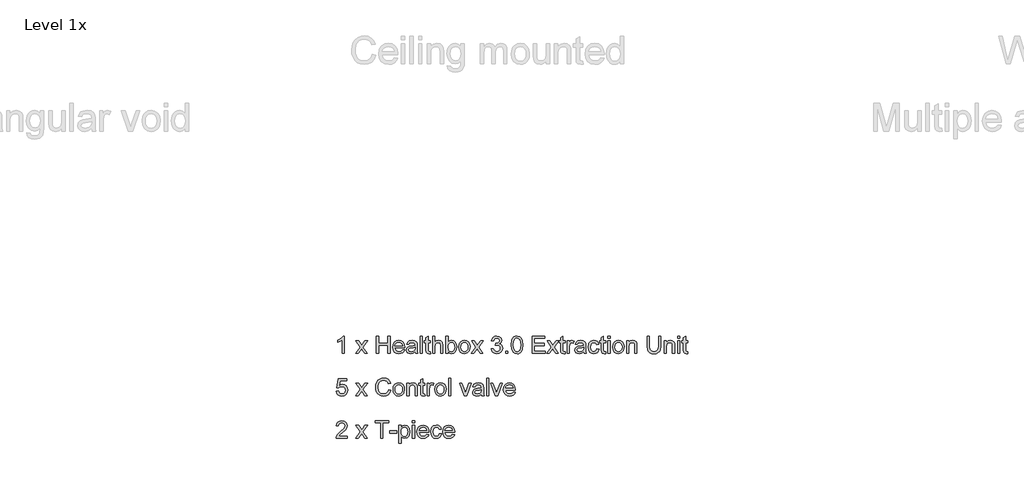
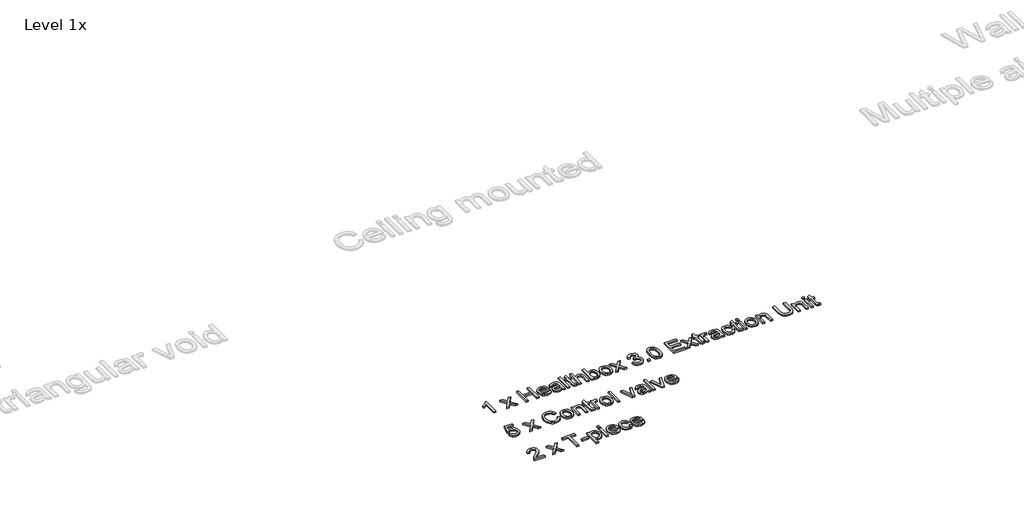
# One storey, part 3 of 7: 1 proxy.
"""IFC4 building model written with IfcOpenShell, lengths in millimetres."""

from ifc_helpers import new_model, si_unit, origin, origin_with_axes, place, context, project, spatial, polyline, outline, extrude, element, save

model = new_model("IFC4")

# Units and contexts
model_context = context("Model", 3, world=origin())
ifc_project = project(units=[si_unit("LENGTHUNIT", "METRE", prefix="MILLI")], contexts=[model_context])

# Site, building, storey
site = spatial("IfcSite", under=ifc_project)
building = spatial("IfcBuilding", under=site)
storey = spatial("IfcBuildingStorey", under=building, Name="Level 1x", Elevation=0.0)

# Proxy
placement = place(None, origin())
element("IfcBuildingElementProxy", 1, Name="120mm Arial", ObjectType="120mm Arial", at=placement, inside=storey, context=model_context, shape_type="SweptSolid", body=[
    extrude(outline(polyline([(-11701.1339528, -1686.8729039), (-11716.2023993, -1686.8729039), (-11716.2023993, -1592.9305577), (-11730.4762207, -1603.098816), (-11746.3392924, -1610.7066157), (-11746.3392924, -1596.4622248), (-11724.2516574, -1582.3649868), (-11710.8460375, -1566.3253318), (-11701.1339528, -1566.3253318), (-11701.1339528, -1686.8729039)])), origin_with_axes(), (0.0, 0.0, 1.0), 10.0),
    extrude(outline(polyline([(-11623.9081644, -1686.8729039), (-11591.7111321, -1642.3738978), (-11622.0246085, -1598.3457806), (-11603.8953838, -1598.3457806), (-11589.2683957, -1619.5357836), (-11582.4405059, -1629.5421738), (-11576.5249634, -1621.3604782), (-11559.8672666, -1598.3457806), (-11541.7380419, -1598.3457806), (-11573.5819074, -1642.3738978), (-11542.9152643, -1686.8729039), (-11561.044489, -1686.8729039), (-11579.4974499, -1660.1205253), (-11582.8819643, -1655.2350524), (-11605.7789396, -1686.8729039), (-11623.9081644, -1686.8729039)])), origin_with_axes(), (0.0, 0.0, 1.0), 10.0),
    extrude(outline(polyline([(-11480.7579224, -1686.8729039), (-11480.7579224, -1566.3253318), (-11465.6894759, -1566.3253318), (-11465.6894759, -1615.297783), (-11401.6485781, -1615.297783), (-11401.6485781, -1566.3253318), (-11386.5801316, -1566.3253318), (-11386.5801316, -1686.8729039), (-11401.6485781, -1686.8729039), (-11401.6485781, -1630.3662295), (-11465.6894759, -1630.3662295), (-11465.6894759, -1686.8729039), (-11480.7579224, -1686.8729039)])), origin_with_axes(), (0.0, 0.0, 1.0), 10.0),
    extrude(outline(polyline([(-11300.1131475, -1660.5031225), (-11285.3390066, -1662.3866783), (-11290.662259, -1673.5187875), (-11299.1566543, -1681.8402783), (-11310.6308937, -1687.0274144), (-11324.8936787, -1688.7564598), (-11342.5740874, -1685.7729368), (-11356.1783635, -1676.8223678), (-11364.853021, -1662.4860065), (-11367.7445735, -1643.3451063), (-11364.8235904, -1623.5604126), (-11356.0606413, -1608.7641987), (-11342.6403061, -1599.5377183), (-11325.7471649, -1596.4622248), (-11309.3800949, -1599.5303607), (-11296.30189, -1608.7347682), (-11287.7265607, -1623.5015515), (-11284.8681176, -1643.2568146), (-11284.9564093, -1647.3182318), (-11352.676127, -1647.3182318), (-11350.0678436, -1658.5974938), (-11344.0088271, -1666.889554), (-11335.2642721, -1671.9883984), (-11324.5993731, -1673.6880132), (-11309.8252322, -1670.5389434), (-11300.1131475, -1660.5031225)]), holes=[polyline([(-11352.676127, -1632.2497853), (-11299.9365641, -1632.2497853), (-11305.9698288, -1618.5940056), (-11314.7548509, -1613.2965049), (-11325.806026, -1611.5306713), (-11335.9632479, -1612.9396594), (-11344.3619939, -1617.1666235), (-11350.2002811, -1623.75539), (-11352.676127, -1632.2497853)])]), origin_with_axes(), (0.0, 0.0, 1.0), 10.0),
    extrude(outline(polyline([(-11213.2929966, -1675.5715691), (-11227.9052695, -1685.7839732), (-11244.0479314, -1688.7564598), (-11256.6405321, -1686.9685533), (-11265.9295525, -1681.6048338), (-11271.6574752, -1673.4599264), (-11273.5667827, -1663.3284563), (-11270.6825879, -1651.4090796), (-11263.1042188, -1642.7564951), (-11252.5533631, -1637.8121611), (-11239.5156252, -1635.546008), (-11213.3812883, -1630.3662295), (-11213.2929966, -1627.0111457), (-11217.4427055, -1615.8863942), (-11234.1004023, -1611.5306713), (-11249.3454321, -1614.4295815), (-11256.6147804, -1624.715562), (-11271.6832269, -1622.8320062), (-11265.1643579, -1608.1167264), (-11252.0383284, -1599.4935725), (-11232.1579853, -1596.4622248), (-11213.8963231, -1599.1404057), (-11203.5809119, -1605.8652886), (-11198.9603141, -1616.0924081), (-11198.2245501, -1629.2772988), (-11198.2245501, -1648.0245653), (-11197.4593555, -1674.203048), (-11194.4574385, -1686.8729039), (-11209.525885, -1686.8729039), (-11213.2929966, -1675.5715691)]), holes=[polyline([(-11213.2929966, -1645.434676), (-11237.6026389, -1650.0552739), (-11250.5668004, -1652.4980103), (-11256.438197, -1656.4711359), (-11258.4983362, -1662.2689561), (-11254.0101758, -1670.4212211), (-11240.8400004, -1673.6880132), (-11225.5949705, -1670.0827697), (-11215.7651636, -1661.3566088), (-11213.3812883, -1649.7021072), (-11213.2929966, -1645.434676)])]), origin_with_axes(), (0.0, 0.0, 1.0), 10.0),
    extrude(outline(polyline([(-11177.5054361, -1686.8729039), (-11177.5054361, -1566.3253318), (-11162.4369896, -1566.3253318), (-11162.4369896, -1686.8729039), (-11177.5054361, -1686.8729039)])), origin_with_axes(), (0.0, 0.0, 1.0), 10.0),
    extrude(outline(polyline([(-11107.813871, -1674.306055), (-11105.9303151, -1687.3143623), (-11117.2022195, -1688.7564598), (-11129.8279296, -1686.2548622), (-11136.1260693, -1679.6918474), (-11137.950764, -1662.5926923), (-11137.950764, -1613.4142272), (-11149.2520989, -1613.4142272), (-11149.2520989, -1598.3457806), (-11137.950764, -1598.3457806), (-11137.950764, -1576.8320416), (-11122.8823175, -1567.9734431), (-11122.8823175, -1598.3457806), (-11107.813871, -1598.3457806), (-11107.813871, -1613.4142272), (-11122.8823175, -1613.4142272), (-11122.8823175, -1662.1512339), (-11122.0876924, -1669.9209016), (-11119.5125184, -1672.6726589), (-11114.3768858, -1673.6880132), (-11107.813871, -1674.306055)])), origin_with_axes(), (0.0, 0.0, 1.0), 10.0),
    extrude(outline(polyline([(-11092.7454244, -1686.8729039), (-11092.7454244, -1566.3253318), (-11077.6769779, -1566.3253318), (-11077.6769779, -1610.6477545), (-11065.926827, -1600.0086072), (-11051.4543493, -1596.4622248), (-11034.5317775, -1600.3323434), (-11024.2605122, -1611.0303518), (-11021.1703035, -1630.8371184), (-11021.1703035, -1686.8729039), (-11036.23875, -1686.8729039), (-11036.23875, -1632.3969381), (-11041.0359312, -1616.5044359), (-11054.6328497, -1611.5306713), (-11066.9789695, -1614.8857551), (-11075.2195262, -1623.9797981), (-11077.6769779, -1639.8428697), (-11077.6769779, -1686.8729039), (-11092.7454244, -1686.8729039)])), origin_with_axes(), (0.0, 0.0, 1.0), 10.0),
    extrude(outline(polyline([(-10985.382743, -1686.8729039), (-11000.4511895, -1686.8729039), (-11000.4511895, -1566.3253318), (-10985.382743, -1566.3253318), (-10985.382743, -1611.0303518), (-10974.8318873, -1600.1042566), (-10961.720573, -1596.4622248), (-10946.622696, -1599.7437322), (-10934.9093332, -1608.9702126), (-10927.7135614, -1623.3176105), (-10925.1089569, -1641.2849671), (-10927.8055319, -1661.4007546), (-10935.895257, -1676.3661942), (-10947.766809, -1685.6588934), (-10961.8088647, -1688.7564598), (-10975.207127, -1684.7612613), (-10985.382743, -1672.7756659), (-10985.382743, -1686.8729039)]), holes=[polyline([(-10985.382743, -1641.9913005), (-10981.2624646, -1663.0635812), (-10973.367717, -1671.0319052), (-10963.1038093, -1673.6880132), (-10954.407079, -1671.730881), (-10946.9758627, -1665.8594844), (-10941.8770182, -1656.1106115), (-10940.1774034, -1642.5210506), (-10941.8071206, -1628.7328334), (-10946.6962724, -1619.0943252), (-10953.895723, -1613.4215848), (-10962.456337, -1611.5306713), (-10971.1530674, -1613.4878035), (-10978.5842837, -1619.3592002), (-10983.6831281, -1628.9314897), (-10985.382743, -1641.9913005)])]), origin_with_axes(), (0.0, 0.0, 1.0), 10.0),
    extrude(outline(polyline([(-10911.9240662, -1642.6093423), (-10908.6646317, -1621.2648289), (-10898.8863283, -1606.2626012), (-10886.8050835, -1598.9123189), (-10872.3399635, -1596.4622248), (-10856.5100012, -1599.4457478), (-10843.8658971, -1608.3963167), (-10835.5775157, -1622.6075982), (-10832.8147219, -1641.3732588), (-10837.7001948, -1668.1844986), (-10851.9298704, -1683.3559521), (-10872.3399635, -1688.7564598), (-10888.3612244, -1685.7839732), (-10900.9906133, -1676.8665137), (-10909.1907029, -1662.3572478), (-10911.9240662, -1642.6093423)]), holes=[polyline([(-10896.8556196, -1642.5799117), (-10895.111859, -1656.2172973), (-10889.880577, -1665.9330608), (-10882.0079023, -1671.7492751), (-10872.3399635, -1673.6880132), (-10862.7161705, -1671.7382387), (-10854.8582111, -1665.8889149), (-10849.6269291, -1656.0443928), (-10847.8831684, -1642.1090228), (-10849.6379656, -1628.8689498), (-10854.9023569, -1619.2856238), (-10862.7713528, -1613.4694095), (-10872.3399635, -1611.5306713), (-10882.0079023, -1613.4620518), (-10889.880577, -1619.2561932), (-10895.111859, -1628.9498838), (-10896.8556196, -1642.5799117)])]), origin_with_axes(), (0.0, 0.0, 1.0), 10.0),
    extrude(outline(polyline([(-10825.2804987, -1686.8729039), (-10793.0834664, -1642.3738978), (-10823.3969429, -1598.3457806), (-10805.2677181, -1598.3457806), (-10790.64073, -1619.5357836), (-10783.8128402, -1629.5421738), (-10777.8972977, -1621.3604782), (-10761.2396009, -1598.3457806), (-10743.1103762, -1598.3457806), (-10774.9542417, -1642.3738978), (-10744.2875986, -1686.8729039), (-10762.4168233, -1686.8729039), (-10780.8697842, -1660.1205253), (-10784.2542986, -1655.2350524), (-10807.1512739, -1686.8729039), (-10825.2804987, -1686.8729039)])), origin_with_axes(), (0.0, 0.0, 1.0), 10.0),
    extrude(outline(polyline([(-10687.7809241, -1654.8524551), (-10672.7124776, -1652.9688993), (-10664.3983445, -1668.8319709), (-10648.8442938, -1673.6880132), (-10638.5141674, -1672.017829), (-10630.5384857, -1667.0072762), (-10625.4396412, -1659.5319141), (-10623.7400264, -1650.4673017), (-10625.424926, -1641.8625418), (-10630.4796246, -1634.8838204), (-10638.1315701, -1630.2595437), (-10647.6082103, -1628.7181182), (-10658.1737812, -1630.3662295), (-10656.4962393, -1615.297783), (-10654.0829334, -1615.4743663), (-10636.9837783, -1611.1480741), (-10631.288965, -1605.6592747), (-10629.3906939, -1597.8454611), (-10634.8942085, -1586.058522), (-10649.0797383, -1581.3937783), (-10663.4418513, -1586.1026678), (-10670.8289218, -1600.2293364), (-10685.8973683, -1598.3457806), (-10681.4607115, -1584.8150808), (-10673.5659639, -1574.7130413), (-10662.7649485, -1568.4222591), (-10649.6094883, -1566.3253318), (-10631.4361178, -1570.4603254), (-10618.722116, -1581.7616603), (-10614.3222474, -1596.9625443), (-10618.5013868, -1610.8537685), (-10630.8622219, -1620.8307282), (-10621.4297275, -1624.6419856), (-10614.4399696, -1631.131424), (-10610.1136773, -1639.9458766), (-10608.6715799, -1650.7321767), (-10611.5557747, -1665.418026), (-10620.2083593, -1677.6905693), (-10633.2681701, -1685.9899872), (-10649.3740439, -1688.7564598), (-10663.9421709, -1686.3946574), (-10675.8026864, -1679.3092501), (-10684.0506007, -1668.4714465), (-10687.7809241, -1654.8524551)])), origin_with_axes(), (0.0, 0.0, 1.0), 10.0),
    extrude(outline(polyline([(-10587.9524659, -1686.8729039), (-10587.9524659, -1671.8044574), (-10572.8840194, -1671.8044574), (-10572.8840194, -1686.8729039), (-10587.9524659, -1686.8729039)])), origin_with_axes(), (0.0, 0.0, 1.0), 10.0),
    extrude(outline(polyline([(-10548.3977938, -1627.5703263), (-10543.9684946, -1592.8864118), (-10538.4649799, -1581.1693703), (-10530.8130344, -1572.8883466), (-10520.9574758, -1567.9660855), (-10508.8431217, -1566.3253318), (-10491.243647, -1570.2101656), (-10479.0888259, -1581.4084936), (-10472.0254916, -1599.2434127), (-10469.2884496, -1627.5703263), (-10473.673603, -1662.107088), (-10479.1440082, -1673.835166), (-10486.7849173, -1682.1492991), (-10496.6625488, -1687.1046696), (-10508.8431217, -1688.7564598), (-10524.5001794, -1685.8869802), (-10536.3901255, -1677.2785415), (-10545.3958767, -1656.8905213), (-10548.3977938, -1627.5703263)]), holes=[polyline([(-10533.3293473, -1627.5408958), (-10531.5635137, -1651.2435327), (-10526.266013, -1664.9618523), (-10518.378623, -1671.506473), (-10508.8431217, -1673.6880132), (-10499.3076204, -1671.4991154), (-10491.4202304, -1664.9324218), (-10486.1227297, -1651.2067445), (-10484.3568961, -1627.5408958), (-10486.0638686, -1604.3716877), (-10491.1847859, -1590.5466823), (-10499.0574606, -1583.6820043), (-10509.0197051, -1581.3937783), (-10518.4521994, -1583.4097716), (-10526.0305685, -1589.4577516), (-10531.5046526, -1604.1436009), (-10533.3293473, -1627.5408958)])]), origin_with_axes(), (0.0, 0.0, 1.0), 10.0),
    extrude(outline(polyline([(-10403.363996, -1686.8729039), (-10403.363996, -1566.3253318), (-10316.7204285, -1566.3253318), (-10316.7204285, -1581.3937783), (-10388.2955495, -1581.3937783), (-10388.2955495, -1617.1813388), (-10320.4875402, -1617.1813388), (-10320.4875402, -1632.2497853), (-10388.2955495, -1632.2497853), (-10388.2955495, -1671.8044574), (-10314.8368727, -1671.8044574), (-10314.8368727, -1686.8729039), (-10403.363996, -1686.8729039)])), origin_with_axes(), (0.0, 0.0, 1.0), 10.0),
    extrude(outline(polyline([(-10303.5355378, -1686.8729039), (-10271.3385056, -1642.3738978), (-10301.651982, -1598.3457806), (-10283.5227573, -1598.3457806), (-10268.8957692, -1619.5357836), (-10262.0678793, -1629.5421738), (-10256.1523368, -1621.3604782), (-10239.4946401, -1598.3457806), (-10221.3654154, -1598.3457806), (-10253.2092809, -1642.3738978), (-10222.5426378, -1686.8729039), (-10240.6718625, -1686.8729039), (-10259.1248234, -1660.1205253), (-10262.5093377, -1655.2350524), (-10285.4063131, -1686.8729039), (-10303.5355378, -1686.8729039)])), origin_with_axes(), (0.0, 0.0, 1.0), 10.0),
    extrude(outline(polyline([(-10177.3372982, -1674.306055), (-10175.4537424, -1687.3143623), (-10186.7256467, -1688.7564598), (-10199.3513568, -1686.2548622), (-10205.6494965, -1679.6918474), (-10207.4741912, -1662.5926923), (-10207.4741912, -1613.4142272), (-10218.7755261, -1613.4142272), (-10218.7755261, -1598.3457806), (-10207.4741912, -1598.3457806), (-10207.4741912, -1576.8320416), (-10192.4057447, -1567.9734431), (-10192.4057447, -1598.3457806), (-10177.3372982, -1598.3457806), (-10177.3372982, -1613.4142272), (-10192.4057447, -1613.4142272), (-10192.4057447, -1662.1512339), (-10191.6111196, -1669.9209016), (-10189.0359456, -1672.6726589), (-10183.900313, -1673.6880132), (-10177.3372982, -1674.306055)])), origin_with_axes(), (0.0, 0.0, 1.0), 10.0),
    extrude(outline(polyline([(-10162.2688517, -1686.8729039), (-10162.2688517, -1598.3457806), (-10149.083961, -1598.3457806), (-10149.083961, -1611.4423797), (-10139.725043, -1599.3758502), (-10130.3072639, -1596.4622248), (-10115.1799563, -1601.1122532), (-10120.212582, -1614.6208801), (-10130.8075835, -1611.5306713), (-10139.3277305, -1614.5031579), (-10144.7576687, -1622.7437145), (-10147.2004052, -1640.3431892), (-10147.2004052, -1686.8729039), (-10162.2688517, -1686.8729039)])), origin_with_axes(), (0.0, 0.0, 1.0), 10.0),
    extrude(outline(polyline([(-10049.2555028, -1675.5715691), (-10063.8677756, -1685.7839732), (-10080.0104376, -1688.7564598), (-10092.6030383, -1686.9685533), (-10101.8920586, -1681.6048338), (-10107.6199813, -1673.4599264), (-10109.5292888, -1663.3284563), (-10106.645094, -1651.4090796), (-10099.0667249, -1642.7564951), (-10088.5158693, -1637.8121611), (-10075.4781314, -1635.546008), (-10049.3437944, -1630.3662295), (-10049.2555028, -1627.0111457), (-10053.4052117, -1615.8863942), (-10070.0629084, -1611.5306713), (-10085.3079383, -1614.4295815), (-10092.5772865, -1624.715562), (-10107.645733, -1622.8320062), (-10101.1268641, -1608.1167264), (-10088.0008345, -1599.4935725), (-10068.1204915, -1596.4622248), (-10049.8588292, -1599.1404057), (-10039.5434181, -1605.8652886), (-10034.9228202, -1616.0924081), (-10034.1870562, -1629.2772988), (-10034.1870562, -1648.0245653), (-10033.4218617, -1674.203048), (-10030.4199446, -1686.8729039), (-10045.4883911, -1686.8729039), (-10049.2555028, -1675.5715691)]), holes=[polyline([(-10049.2555028, -1645.434676), (-10073.565145, -1650.0552739), (-10086.5293065, -1652.4980103), (-10092.4007032, -1656.4711359), (-10094.4608423, -1662.2689561), (-10089.972682, -1670.4212211), (-10076.8025066, -1673.6880132), (-10061.5574767, -1670.0827697), (-10051.7276698, -1661.3566088), (-10049.3437944, -1649.7021072), (-10049.2555028, -1645.434676)])]), origin_with_axes(), (0.0, 0.0, 1.0), 10.0),
    extrude(outline(polyline([(-9956.9612678, -1654.8524551), (-9941.8928213, -1656.7360109), (-9946.0940337, -1670.137952), (-9953.9887813, -1680.2657433), (-9964.8339425, -1686.6337807), (-9977.8863957, -1688.7564598), (-9993.9150142, -1685.7950097), (-10006.4487538, -1676.9106595), (-10014.5384789, -1662.4933641), (-10017.2350539, -1642.9330784), (-10012.6291713, -1617.9023875), (-10006.8166358, -1608.5177178), (-9998.5907944, -1601.8185867), (-9978.0924096, -1596.4622248), (-9965.3600138, -1598.3016348), (-9955.180719, -1603.8198647), (-9947.8782613, -1612.722609), (-9943.7763771, -1624.715562), (-9958.8448236, -1626.5991179), (-9965.8345815, -1615.3124982), (-9977.9746874, -1611.5306713), (-9987.7125238, -1613.3921542), (-9995.4417245, -1618.9766029), (-10000.4853867, -1628.5856806), (-10002.1666074, -1642.5210506), (-10000.5221749, -1656.6440404), (-9995.5888773, -1666.2862275), (-9987.9994717, -1671.8375668), (-9978.3867152, -1673.6880132), (-9964.1864702, -1669.0674154), (-9956.9612678, -1654.8524551)])), origin_with_axes(), (0.0, 0.0, 1.0), 10.0),
    extrude(outline(polyline([(-9896.6874817, -1674.306055), (-9894.8039259, -1687.3143623), (-9906.0758302, -1688.7564598), (-9918.7015403, -1686.2548622), (-9924.9996801, -1679.6918474), (-9926.8243748, -1662.5926923), (-9926.8243748, -1613.4142272), (-9938.1257097, -1613.4142272), (-9938.1257097, -1598.3457806), (-9926.8243748, -1598.3457806), (-9926.8243748, -1576.8320416), (-9911.7559282, -1567.9734431), (-9911.7559282, -1598.3457806), (-9896.6874817, -1598.3457806), (-9896.6874817, -1613.4142272), (-9911.7559282, -1613.4142272), (-9911.7559282, -1662.1512339), (-9910.9613031, -1669.9209016), (-9908.3861292, -1672.6726589), (-9903.2504965, -1673.6880132), (-9896.6874817, -1674.306055)])), origin_with_axes(), (0.0, 0.0, 1.0), 10.0),
    extrude(outline(polyline([(-9881.6190352, -1581.3937783), (-9881.6190352, -1566.3253318), (-9866.5505887, -1566.3253318), (-9866.5505887, -1581.3937783), (-9881.6190352, -1581.3937783)])), origin_with_axes(), (0.0, 0.0, 1.0), 10.0),
    extrude(outline(polyline([(-9881.6190352, -1686.8729039), (-9881.6190352, -1598.3457806), (-9866.5505887, -1598.3457806), (-9866.5505887, -1686.8729039), (-9881.6190352, -1686.8729039)])), origin_with_axes(), (0.0, 0.0, 1.0), 10.0),
    extrude(outline(polyline([(-9847.7150305, -1642.6093423), (-9844.455596, -1621.2648289), (-9834.6772926, -1606.2626012), (-9822.5960479, -1598.9123189), (-9808.1309278, -1596.4622248), (-9792.3009656, -1599.4457478), (-9779.6568614, -1608.3963167), (-9771.3684801, -1622.6075982), (-9768.6056863, -1641.3732588), (-9773.4911592, -1668.1844986), (-9787.7208347, -1683.3559521), (-9808.1309278, -1688.7564598), (-9824.1521887, -1685.7839732), (-9836.7815776, -1676.8665137), (-9844.9816673, -1662.3572478), (-9847.7150305, -1642.6093423)]), holes=[polyline([(-9832.646584, -1642.5799117), (-9830.9028233, -1656.2172973), (-9825.6715414, -1665.9330608), (-9817.7988667, -1671.7492751), (-9808.1309278, -1673.6880132), (-9798.5071348, -1671.7382387), (-9790.6491754, -1665.8889149), (-9785.4178935, -1656.0443928), (-9783.6741328, -1642.1090228), (-9785.4289299, -1628.8689498), (-9790.6933213, -1619.2856238), (-9798.5623171, -1613.4694095), (-9808.1309278, -1611.5306713), (-9817.7988667, -1613.4620518), (-9825.6715414, -1619.2561932), (-9830.9028233, -1628.9498838), (-9832.646584, -1642.5799117)])]), origin_with_axes(), (0.0, 0.0, 1.0), 10.0),
    extrude(outline(polyline([(-9751.6536839, -1686.8729039), (-9751.6536839, -1598.3457806), (-9736.5852374, -1598.3457806), (-9736.5852374, -1610.7066157), (-9725.0631733, -1600.0233225), (-9709.3325392, -1596.4622248), (-9695.1028636, -1599.3317044), (-9685.390779, -1606.8659276), (-9680.8731881, -1617.9465333), (-9680.078563, -1632.5146603), (-9680.078563, -1686.8729039), (-9695.1470095, -1686.8729039), (-9695.1470095, -1634.545369), (-9696.8834125, -1621.2133254), (-9703.0196842, -1614.1647064), (-9713.3645259, -1611.5306713), (-9722.1900149, -1613.009557), (-9729.7132017, -1617.4462138), (-9734.8672285, -1626.0178643), (-9736.5852374, -1639.9017308), (-9736.5852374, -1686.8729039), (-9751.6536839, -1686.8729039)])), origin_with_axes(), (0.0, 0.0, 1.0), 10.0),
    extrude(outline(polyline([(-9531.2776536, -1566.3253318), (-9516.209207, -1566.3253318), (-9516.209207, -1635.8697441), (-9520.3000548, -1664.6969773), (-9526.0316563, -1674.3722738), (-9535.0447652, -1682.0610075), (-9547.3614544, -1687.0825967), (-9563.0037968, -1688.7564598), (-9578.304009, -1687.2996471), (-9590.5360853, -1682.929209), (-9599.7037047, -1675.7959771), (-9605.8105458, -1666.050783), (-9610.3869978, -1635.8697441), (-9610.3869978, -1566.3253318), (-9595.3185513, -1566.3253318), (-9595.3185513, -1635.3399941), (-9592.3460648, -1658.3105458), (-9582.1336606, -1669.6854571), (-9564.4164637, -1673.6880132), (-9549.0904998, -1671.7088081), (-9538.9001685, -1665.7711927), (-9533.1832823, -1654.2049828), (-9531.2776536, -1635.3399941), (-9531.2776536, -1566.3253318)])), origin_with_axes(), (0.0, 0.0, 1.0), 10.0),
    extrude(outline(polyline([(-9491.7229814, -1686.8729039), (-9491.7229814, -1598.3457806), (-9476.6545349, -1598.3457806), (-9476.6545349, -1610.7066157), (-9465.1324708, -1600.0233225), (-9449.4018367, -1596.4622248), (-9435.1721611, -1599.3317044), (-9425.4600765, -1606.8659276), (-9420.9424856, -1617.9465333), (-9420.1478604, -1632.5146603), (-9420.1478604, -1686.8729039), (-9435.216307, -1686.8729039), (-9435.216307, -1634.545369), (-9436.95271, -1621.2133254), (-9443.0889817, -1614.1647064), (-9453.4338234, -1611.5306713), (-9462.2593124, -1613.009557), (-9469.7824992, -1617.4462138), (-9474.936526, -1626.0178643), (-9476.6545349, -1639.9017308), (-9476.6545349, -1686.8729039), (-9491.7229814, -1686.8729039)])), origin_with_axes(), (0.0, 0.0, 1.0), 10.0),
    extrude(outline(polyline([(-9399.4287465, -1686.8729039), (-9399.4287465, -1598.3457806), (-9384.3603, -1598.3457806), (-9384.3603, -1686.8729039), (-9399.4287465, -1686.8729039)])), origin_with_axes(), (0.0, 0.0, 1.0), 10.0),
    extrude(outline(polyline([(-9399.4287465, -1581.3937783), (-9399.4287465, -1566.3253318), (-9384.3603, -1566.3253318), (-9384.3603, -1581.3937783), (-9399.4287465, -1581.3937783)])), origin_with_axes(), (0.0, 0.0, 1.0), 10.0),
    extrude(outline(polyline([(-9329.7371813, -1674.306055), (-9327.8536255, -1687.3143623), (-9339.1255298, -1688.7564598), (-9351.7512399, -1686.2548622), (-9358.0493797, -1679.6918474), (-9359.8740744, -1662.5926923), (-9359.8740744, -1613.4142272), (-9371.1754093, -1613.4142272), (-9371.1754093, -1598.3457806), (-9359.8740744, -1598.3457806), (-9359.8740744, -1576.8320416), (-9344.8056278, -1567.9734431), (-9344.8056278, -1598.3457806), (-9329.7371813, -1598.3457806), (-9329.7371813, -1613.4142272), (-9344.8056278, -1613.4142272), (-9344.8056278, -1662.1512339), (-9344.0110027, -1669.9209016), (-9341.4358288, -1672.6726589), (-9336.3001961, -1673.6880132), (-9329.7371813, -1674.306055)])), origin_with_axes(), (0.0, 0.0, 1.0), 10.0),
    extrude(outline(polyline([(-11757.6406272, -1947.5920179), (-11742.5721807, -1945.7084621), (-11734.9790963, -1961.2330823), (-11719.2337469, -1966.4275761), (-11708.4327316, -1964.6212755), (-11700.3393277, -1959.2023737), (-11695.2846291, -1950.7962701), (-11693.5997295, -1940.0283641), (-11695.1779433, -1929.8895363), (-11699.9125846, -1922.1345838), (-11707.8404416, -1917.2123228), (-11718.9983025, -1915.5715691), (-11732.227339, -1918.1908889), (-11740.6886249, -1924.9893481), (-11755.7570714, -1923.1057923), (-11742.5721807, -1860.9484504), (-11684.1819504, -1860.9484504), (-11684.1819504, -1876.0168969), (-11730.387929, -1876.0168969), (-11736.8332216, -1909.2145682), (-11726.0689944, -1902.6809839), (-11714.7897324, -1900.5031225), (-11700.7108885, -1903.2033764), (-11689.0232775, -1911.3041379), (-11681.1542816, -1923.6502577), (-11678.531283, -1939.0865862), (-11680.8930854, -1954.1550327), (-11687.9784926, -1967.0456178), (-11701.5459806, -1977.8834214), (-11719.2926081, -1981.4960226), (-11734.0925007, -1979.1746872), (-11745.8831187, -1972.210681), (-11753.9654861, -1961.4133445), (-11757.6406272, -1947.5920179)])), origin_with_axes(), (0.0, 0.0, 1.0), 10.0),
    extrude(outline(polyline([(-11623.9081644, -1979.6124668), (-11591.7111321, -1935.1134606), (-11622.0246085, -1891.0853435), (-11603.8953838, -1891.0853435), (-11589.2683957, -1912.2753464), (-11582.4405059, -1922.2817366), (-11576.5249634, -1914.1000411), (-11559.8672666, -1891.0853435), (-11541.7380419, -1891.0853435), (-11573.5819074, -1935.1134606), (-11542.9152643, -1979.6124668), (-11561.044489, -1979.6124668), (-11579.4974499, -1952.8600881), (-11582.8819643, -1947.9746152), (-11605.7789396, -1979.6124668), (-11623.9081644, -1979.6124668)])), origin_with_axes(), (0.0, 0.0, 1.0), 10.0),
    extrude(outline(polyline([(-11395.9979107, -1936.761572), (-11380.9294642, -1940.6464058), (-11387.8824339, -1958.2054135), (-11398.7938139, -1971.0334586), (-11413.1264964, -1978.8803816), (-11430.3433738, -1981.4960226), (-11447.8214474, -1979.5168175), (-11461.701635, -1973.5792021), (-11472.3407823, -1963.8891903), (-11480.0957348, -1950.6527961), (-11484.8303761, -1935.0913877), (-11486.4085898, -1918.4263333), (-11484.6243622, -1900.8489316), (-11479.2716791, -1885.6701205), (-11470.6301311, -1873.3718254), (-11458.9793083, -1864.4359717), (-11445.1616605, -1858.994997), (-11430.0196376, -1857.1813388), (-11413.4980572, -1859.5284259), (-11399.8385987, -1866.5696873), (-11389.4680053, -1877.8710222), (-11382.81302, -1892.9983298), (-11397.8814665, -1896.5888581), (-11403.1053909, -1885.6002229), (-11410.2423016, -1878.0623208), (-11419.3804903, -1873.7029192), (-11430.6082488, -1872.2497853), (-11443.5503374, -1873.8611084), (-11454.1821271, -1878.6950779), (-11462.2497792, -1886.2440164), (-11467.4994553, -1896.0002469), (-11471.3401433, -1918.3969028), (-11466.7931219, -1944.3546564), (-11460.9805863, -1954.0483469), (-11452.6370227, -1960.9387767), (-11431.8443323, -1966.4275761), (-11419.2664469, -1964.5587355), (-11408.7854889, -1958.9522139), (-11400.8723471, -1949.6668724), (-11395.9979107, -1936.761572)])), origin_with_axes(), (0.0, 0.0, 1.0), 10.0),
    extrude(outline(polyline([(-11365.8610177, -1935.3489051), (-11362.6015832, -1914.0043918), (-11352.8232797, -1899.002164), (-11340.742035, -1891.6518817), (-11326.276915, -1889.2017876), (-11310.4469527, -1892.1853106), (-11297.8028486, -1901.1358796), (-11289.5144672, -1915.347161), (-11286.7516734, -1934.1128216), (-11291.6371463, -1960.9240614), (-11305.8668219, -1976.0955149), (-11326.276915, -1981.4960226), (-11342.2981759, -1978.5235361), (-11354.9275648, -1969.6060765), (-11363.1276544, -1955.0968106), (-11365.8610177, -1935.3489051)]), holes=[polyline([(-11350.7925711, -1935.3194746), (-11349.0488105, -1948.9568601), (-11343.8175285, -1958.6726236), (-11335.9448538, -1964.488838), (-11326.276915, -1966.4275761), (-11316.653122, -1964.4778015), (-11308.7951626, -1958.6284778), (-11303.5638806, -1948.7839556), (-11301.8201199, -1934.8485856), (-11303.5749171, -1921.6085126), (-11308.8393084, -1912.0251866), (-11316.7083043, -1906.2089723), (-11326.276915, -1904.2702342), (-11335.9448538, -1906.2016146), (-11343.8175285, -1911.9957561), (-11349.0488105, -1921.6894466), (-11350.7925711, -1935.3194746)])]), origin_with_axes(), (0.0, 0.0, 1.0), 10.0),
    extrude(outline(polyline([(-11269.7996711, -1979.6124668), (-11269.7996711, -1891.0853435), (-11254.7312246, -1891.0853435), (-11254.7312246, -1903.4461785), (-11243.2091605, -1892.7628854), (-11227.4785264, -1889.2017876), (-11213.2488508, -1892.0712672), (-11203.5367661, -1899.6054905), (-11199.0191752, -1910.6860962), (-11198.2245501, -1925.2542232), (-11198.2245501, -1979.6124668), (-11213.2929966, -1979.6124668), (-11213.2929966, -1927.2849318), (-11215.0293996, -1913.9528883), (-11221.1656713, -1906.9042692), (-11231.510513, -1904.2702342), (-11240.3360021, -1905.7491198), (-11247.8591889, -1910.1857766), (-11253.0132156, -1918.7574271), (-11254.7312246, -1932.6412936), (-11254.7312246, -1979.6124668), (-11269.7996711, -1979.6124668)])), origin_with_axes(), (0.0, 0.0, 1.0), 10.0),
    extrude(outline(polyline([(-11145.4849873, -1967.0456178), (-11143.6014315, -1980.0539252), (-11154.8733358, -1981.4960226), (-11167.4990459, -1978.994425), (-11173.7971856, -1972.4314102), (-11175.6218803, -1955.3322551), (-11175.6218803, -1906.15379), (-11186.9232152, -1906.15379), (-11186.9232152, -1891.0853435), (-11175.6218803, -1891.0853435), (-11175.6218803, -1869.5716044), (-11160.5534338, -1860.7130059), (-11160.5534338, -1891.0853435), (-11145.4849873, -1891.0853435), (-11145.4849873, -1906.15379), (-11160.5534338, -1906.15379), (-11160.5534338, -1954.8907967), (-11159.7588087, -1962.6604644), (-11157.1836347, -1965.4122218), (-11152.0480021, -1966.4275761), (-11145.4849873, -1967.0456178)])), origin_with_axes(), (0.0, 0.0, 1.0), 10.0),
    extrude(outline(polyline([(-11130.4165407, -1979.6124668), (-11130.4165407, -1891.0853435), (-11117.23165, -1891.0853435), (-11117.23165, -1904.1819425), (-11107.8727321, -1892.115413), (-11098.454953, -1889.2017876), (-11083.3276454, -1893.8518161), (-11088.3602711, -1907.3604429), (-11098.9552725, -1904.2702342), (-11107.4754195, -1907.2427207), (-11112.9053578, -1915.4832774), (-11115.3480942, -1933.082752), (-11115.3480942, -1979.6124668), (-11130.4165407, -1979.6124668)])), origin_with_axes(), (0.0, 0.0, 1.0), 10.0),
    extrude(outline(polyline([(-11077.6769779, -1935.3489051), (-11074.4175434, -1914.0043918), (-11064.63924, -1899.002164), (-11052.5579953, -1891.6518817), (-11038.0928752, -1889.2017876), (-11022.262913, -1892.1853106), (-11009.6188088, -1901.1358796), (-11001.3304275, -1915.347161), (-10998.5676337, -1934.1128216), (-11003.4531066, -1960.9240614), (-11017.6827821, -1976.0955149), (-11038.0928752, -1981.4960226), (-11054.1141361, -1978.5235361), (-11066.743525, -1969.6060765), (-11074.9436147, -1955.0968106), (-11077.6769779, -1935.3489051)]), holes=[polyline([(-11062.6085314, -1935.3194746), (-11060.8647707, -1948.9568601), (-11055.6334888, -1958.6726236), (-11047.7608141, -1964.488838), (-11038.0928752, -1966.4275761), (-11028.4690822, -1964.4778015), (-11020.6111228, -1958.6284778), (-11015.3798409, -1948.7839556), (-11013.6360802, -1934.8485856), (-11015.3908773, -1921.6085126), (-11020.6552687, -1912.0251866), (-11028.5242645, -1906.2089723), (-11038.0928752, -1904.2702342), (-11047.7608141, -1906.2016146), (-11055.6334888, -1911.9957561), (-11060.8647707, -1921.6894466), (-11062.6085314, -1935.3194746)])]), origin_with_axes(), (0.0, 0.0, 1.0), 10.0),
    extrude(outline(polyline([(-10981.6156313, -1979.6124668), (-10981.6156313, -1859.0648946), (-10966.5471848, -1859.0648946), (-10966.5471848, -1979.6124668), (-10981.6156313, -1979.6124668)])), origin_with_axes(), (0.0, 0.0, 1.0), 10.0),
    extrude(outline(polyline([(-10875.1358667, -1979.6124668), (-10906.2733987, -1891.0853435), (-10890.3220354, -1891.0853435), (-10871.4570467, -1944.1192119), (-10865.7769487, -1961.954131), (-10860.2145729, -1945.1198509), (-10841.231862, -1891.0853435), (-10825.2804987, -1891.0853435), (-10856.0354335, -1979.6124668), (-10875.1358667, -1979.6124668)])), origin_with_axes(), (0.0, 0.0, 1.0), 10.0),
    extrude(outline(polyline([(-10755.5889335, -1968.3111319), (-10770.2012063, -1978.5235361), (-10786.3438683, -1981.4960226), (-10798.936469, -1979.7081161), (-10808.2254894, -1974.3443966), (-10813.953412, -1966.1994892), (-10815.8627196, -1956.0680191), (-10812.9785247, -1944.1486424), (-10805.4001556, -1935.4960579), (-10794.8493, -1930.5517239), (-10781.8115621, -1928.2855708), (-10755.6772252, -1923.1057923), (-10755.5889335, -1919.7507085), (-10759.7386424, -1908.625957), (-10776.3963391, -1904.2702342), (-10791.641369, -1907.1691443), (-10798.9107173, -1917.4551249), (-10813.9791638, -1915.5715691), (-10807.4602948, -1900.8562892), (-10794.3342652, -1892.2331353), (-10774.4539222, -1889.2017876), (-10756.19226, -1891.8799686), (-10745.8768488, -1898.6048514), (-10741.256251, -1908.8319709), (-10740.520487, -1922.0168616), (-10740.520487, -1940.7641281), (-10739.7552924, -1966.9426109), (-10736.7533753, -1979.6124668), (-10751.8218219, -1979.6124668), (-10755.5889335, -1968.3111319)]), holes=[polyline([(-10755.5889335, -1938.1742388), (-10779.8985757, -1942.7948367), (-10792.8627373, -1945.2375731), (-10798.7341339, -1949.2106987), (-10800.7942731, -1955.0085189), (-10796.3061127, -1963.160784), (-10783.1359373, -1966.4275761), (-10767.8909074, -1962.8223325), (-10758.0611005, -1954.0961716), (-10755.6772252, -1942.44167), (-10755.5889335, -1938.1742388)])]), origin_with_axes(), (0.0, 0.0, 1.0), 10.0),
    extrude(outline(polyline([(-10719.801373, -1979.6124668), (-10719.801373, -1859.0648946), (-10704.7329265, -1859.0648946), (-10704.7329265, -1979.6124668), (-10719.801373, -1979.6124668)])), origin_with_axes(), (0.0, 0.0, 1.0), 10.0),
    extrude(outline(polyline([(-10660.4105037, -1979.6124668), (-10691.5480358, -1891.0853435), (-10675.5966725, -1891.0853435), (-10656.7316838, -1944.1192119), (-10651.0515858, -1961.954131), (-10645.48921, -1945.1198509), (-10626.506499, -1891.0853435), (-10610.5551357, -1891.0853435), (-10641.3100705, -1979.6124668), (-10660.4105037, -1979.6124668)])), origin_with_axes(), (0.0, 0.0, 1.0), 10.0),
    extrude(outline(polyline([(-10535.3894865, -1953.2426854), (-10520.6153455, -1955.1262412), (-10525.938598, -1966.2583504), (-10534.4329933, -1974.5798411), (-10545.9072327, -1979.7669772), (-10560.1700177, -1981.4960226), (-10577.8504263, -1978.5124996), (-10591.4547025, -1969.5619307), (-10600.12936, -1955.2255693), (-10603.0209125, -1936.0846691), (-10600.0999294, -1916.2999754), (-10591.3369803, -1901.5037616), (-10577.9166451, -1892.2772811), (-10561.0235039, -1889.2017876), (-10544.6564339, -1892.2699235), (-10531.578229, -1901.474331), (-10523.0028997, -1916.2411143), (-10520.1444566, -1935.9963774), (-10520.2327483, -1940.0577947), (-10587.9524659, -1940.0577947), (-10585.3441826, -1951.3370566), (-10579.2851661, -1959.6291168), (-10570.5406111, -1964.7279613), (-10559.8757121, -1966.4275761), (-10545.1015711, -1963.2785062), (-10535.3894865, -1953.2426854)]), holes=[polyline([(-10587.9524659, -1924.9893481), (-10535.2129031, -1924.9893481), (-10541.2461678, -1911.3335685), (-10550.0311899, -1906.0360677), (-10561.082365, -1904.2702342), (-10571.2395869, -1905.6792222), (-10579.6383328, -1909.9061863), (-10585.4766201, -1916.4949529), (-10587.9524659, -1924.9893481)])]), origin_with_axes(), (0.0, 0.0, 1.0), 10.0),
    extrude(outline(polyline([(-11680.4148388, -2257.2835831), (-11680.4148388, -2272.3520296), (-11759.5241831, -2272.3520296), (-11757.9055023, -2261.9630421), (-11748.7525982, -2245.9675329), (-11729.8876095, -2228.5004958), (-11703.8709948, -2203.3962284), (-11697.3668412, -2186.3265039), (-11698.9009091, -2178.7812441), (-11703.5031128, -2172.5088561), (-11710.5774836, -2168.281892), (-11719.5280525, -2166.8729039), (-11728.9274375, -2168.2487826), (-11736.2298951, -2172.3764186), (-11740.9424635, -2178.9320757), (-11742.5721807, -2187.5920179), (-11757.6406272, -2185.7084621), (-11753.987559, -2171.1329775), (-11746.0891326, -2160.4864725), (-11734.3573758, -2153.9749612), (-11719.2043164, -2151.8044574), (-11703.9408924, -2154.2177633), (-11692.2312085, -2161.457681), (-11684.7815981, -2172.2734116), (-11682.2983946, -2185.4141565), (-11684.9765756, -2199.7026932), (-11693.8793198, -2214.4768341), (-11715.4666353, -2235.1223717), (-11732.8012349, -2249.6169223), (-11739.5996942, -2257.2835831), (-11680.4148388, -2257.2835831)])), origin_with_axes(), (0.0, 0.0, 1.0), 10.0),
    extrude(outline(polyline([(-11623.9081644, -2272.3520296), (-11591.7111321, -2227.8530235), (-11622.0246085, -2183.8249063), (-11603.8953838, -2183.8249063), (-11589.2683957, -2205.0149092), (-11582.4405059, -2215.0212995), (-11576.5249634, -2206.8396039), (-11559.8672666, -2183.8249063), (-11541.7380419, -2183.8249063), (-11573.5819074, -2227.8530235), (-11542.9152643, -2272.3520296), (-11561.044489, -2272.3520296), (-11579.4974499, -2245.5996509), (-11582.8819643, -2240.714178), (-11605.7789396, -2272.3520296), (-11623.9081644, -2272.3520296)])), origin_with_axes(), (0.0, 0.0, 1.0), 10.0),
    extrude(outline(polyline([(-11450.6210293, -2272.3520296), (-11450.6210293, -2166.8729039), (-11490.1757015, -2166.8729039), (-11490.1757015, -2151.8044574), (-11395.9979107, -2151.8044574), (-11395.9979107, -2166.8729039), (-11435.5525828, -2166.8729039), (-11435.5525828, -2272.3520296), (-11450.6210293, -2272.3520296)])), origin_with_axes(), (0.0, 0.0, 1.0), 10.0),
    extrude(outline(polyline([(-11388.4636874, -2236.5644691), (-11388.4636874, -2221.4960226), (-11341.3747921, -2221.4960226), (-11341.3747921, -2236.5644691), (-11388.4636874, -2236.5644691)])), origin_with_axes(), (0.0, 0.0, 1.0), 10.0),
    extrude(outline(polyline([(-11324.4227897, -2306.2560343), (-11324.4227897, -2183.8249063), (-11309.3543432, -2183.8249063), (-11309.3543432, -2198.5990472), (-11298.9359251, -2186.1057747), (-11284.8681176, -2181.9413505), (-11265.7676844, -2187.7686013), (-11253.2891271, -2204.1908535), (-11249.0805571, -2227.4115651), (-11253.8335925, -2251.8242143), (-11259.6608433, -2261.4038614), (-11267.6365249, -2268.4524805), (-11286.6928123, -2274.2355854), (-11299.8041266, -2270.3654668), (-11309.3543432, -2260.5798058), (-11309.3543432, -2306.2560343), (-11324.4227897, -2306.2560343)]), holes=[polyline([(-11309.3543432, -2228.7948014), (-11307.724626, -2242.3034282), (-11302.8354742, -2251.7506379), (-11295.6213083, -2257.3130136), (-11287.0165485, -2259.1671389), (-11278.2719934, -2257.2467949), (-11270.8738865, -2251.4857628), (-11265.8302243, -2241.6927441), (-11264.1490036, -2227.6764401), (-11265.7897573, -2214.2413896), (-11270.7120184, -2204.6617425), (-11277.9151479, -2198.9227834), (-11286.3985067, -2197.009797), (-11294.9149749, -2199.0441844), (-11302.3940159, -2205.1473467), (-11307.6142614, -2215.1279853), (-11309.3543432, -2228.7948014)])]), origin_with_axes(), (0.0, 0.0, 1.0), 10.0),
    extrude(outline(polyline([(-11232.1285548, -2166.8729039), (-11232.1285548, -2151.8044574), (-11217.0601082, -2151.8044574), (-11217.0601082, -2166.8729039), (-11232.1285548, -2166.8729039)])), origin_with_axes(), (0.0, 0.0, 1.0), 10.0),
    extrude(outline(polyline([(-11232.1285548, -2272.3520296), (-11232.1285548, -2183.8249063), (-11217.0601082, -2183.8249063), (-11217.0601082, -2272.3520296), (-11232.1285548, -2272.3520296)])), origin_with_axes(), (0.0, 0.0, 1.0), 10.0),
    extrude(outline(polyline([(-11132.4766799, -2245.9822482), (-11117.702539, -2247.865804), (-11123.0257915, -2258.9979132), (-11131.5201867, -2267.3194039), (-11142.9944262, -2272.50654), (-11157.2572111, -2274.2355854), (-11174.9376198, -2271.2520624), (-11188.541896, -2262.3014935), (-11197.2165534, -2247.9651321), (-11200.1081059, -2228.8242319), (-11197.1871229, -2209.0395382), (-11188.4241737, -2194.2433244), (-11175.0038386, -2185.0168439), (-11158.1106973, -2181.9413505), (-11141.7436274, -2185.0094863), (-11128.6654224, -2194.2138938), (-11120.0900931, -2208.9806771), (-11117.23165, -2228.7359403), (-11117.3199417, -2232.7973575), (-11185.0396594, -2232.7973575), (-11182.431376, -2244.0766195), (-11176.3723596, -2252.3686796), (-11167.6278046, -2257.4675241), (-11156.9629055, -2259.1671389), (-11142.1887646, -2256.018069), (-11132.4766799, -2245.9822482)]), holes=[polyline([(-11185.0396594, -2217.728911), (-11132.3000966, -2217.728911), (-11138.3333613, -2204.0731313), (-11147.1183833, -2198.7756306), (-11158.1695585, -2197.009797), (-11168.3267803, -2198.418785), (-11176.7255263, -2202.6457492), (-11182.5638136, -2209.2345157), (-11185.0396594, -2217.728911)])]), origin_with_axes(), (0.0, 0.0, 1.0), 10.0),
    extrude(outline(polyline([(-11045.6565291, -2240.3315807), (-11030.5880825, -2242.2151366), (-11034.7892949, -2255.6170776), (-11042.6840425, -2265.744869), (-11053.5292038, -2272.1129063), (-11066.5816569, -2274.2355854), (-11082.6102755, -2271.2741354), (-11095.144015, -2262.3897852), (-11103.2337401, -2247.9724898), (-11105.9303151, -2228.4122041), (-11101.3244326, -2203.3815131), (-11095.511897, -2193.9968435), (-11087.2860556, -2187.2977123), (-11066.7876709, -2181.9413505), (-11054.055275, -2183.7807604), (-11043.8759802, -2189.2989904), (-11036.5735226, -2198.2017347), (-11032.4716383, -2210.1946877), (-11047.5400849, -2212.0782435), (-11054.5298428, -2200.7916239), (-11066.6699486, -2197.009797), (-11076.407785, -2198.8712799), (-11084.1369858, -2204.4557286), (-11089.1806479, -2214.0648063), (-11090.8618686, -2228.0001763), (-11089.2174361, -2242.1231661), (-11084.2841386, -2251.7653532), (-11076.694733, -2257.3166925), (-11067.0819765, -2259.1671389), (-11052.8817314, -2254.546541), (-11045.6565291, -2240.3315807)])), origin_with_axes(), (0.0, 0.0, 1.0), 10.0),
    extrude(outline(polyline([(-10955.4224333, -2245.9822482), (-10940.6482924, -2247.865804), (-10945.9715448, -2258.9979132), (-10954.4659401, -2267.3194039), (-10965.9401795, -2272.50654), (-10980.2029645, -2274.2355854), (-10997.8833732, -2271.2520624), (-11011.4876493, -2262.3014935), (-11020.1623068, -2247.9651321), (-11023.0538593, -2228.8242319), (-11020.1328762, -2209.0395382), (-11011.3699271, -2194.2433244), (-10997.9495919, -2185.0168439), (-10981.0564507, -2181.9413505), (-10964.6893807, -2185.0094863), (-10951.6111758, -2194.2138938), (-10943.0358465, -2208.9806771), (-10940.1774034, -2228.7359403), (-10940.2656951, -2232.7973575), (-11007.9854128, -2232.7973575), (-11005.3771294, -2244.0766195), (-10999.3181129, -2252.3686796), (-10990.5735579, -2257.4675241), (-10979.9086589, -2259.1671389), (-10965.134518, -2256.018069), (-10955.4224333, -2245.9822482)]), holes=[polyline([(-11007.9854128, -2217.728911), (-10955.2458499, -2217.728911), (-10961.2791146, -2204.0731313), (-10970.0641367, -2198.7756306), (-10981.1153118, -2197.009797), (-10991.2725337, -2198.418785), (-10999.6712797, -2202.6457492), (-11005.5095669, -2209.2345157), (-11007.9854128, -2217.728911)])]), origin_with_axes(), (0.0, 0.0, 1.0), 10.0),
])

save(model, "model.ifc")
